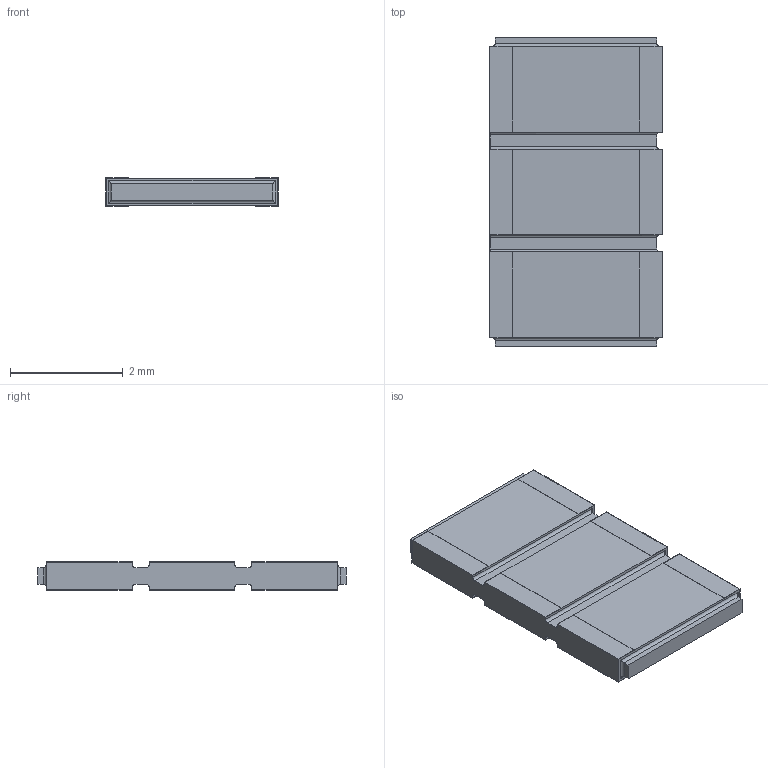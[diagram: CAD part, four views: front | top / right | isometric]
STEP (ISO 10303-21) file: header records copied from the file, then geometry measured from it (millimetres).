
FILE_DESCRIPTION(/* description */ (''),/* implementation_level */ '2;1');
FILE_NAME(/* name */ 'S:\DOCUMENT\AUTOCAD\3D_Modèles\10_3D-pour-VISHAY-COM\PRA\PRA182\PRA182-C2_à_C8\10_IGES\PRA182C3_B-or-N-or-G.stp',/* time_stamp */ '2017-12-19T09:05:56+01:00',/* author */ ('dparmentier'),/* organization */ ('unknown'),/* preprocessor_version */ 'ST-DEVELOPER v17',/* originating_system */ 'Autodesk Inventor 2018',/* authorisation */ '');
FILE_SCHEMA (('AUTOMOTIVE_DESIGN { 1 0 10303 214 3 1 1 }'));
Length unit declared in the file: millimetre
Products named in the file (1): PRA182C3_B-or-N-or-G
Bounding box: 3.06 x 5.47 x 0.5 mm (x, y, z)
Volume: 7.7 mm3; surface area: 67 mm2
Topology: 5 solids, 5 shells, 124 faces, 320 edges, 208 vertices
Faces by surface type: plane 96, cylinder 28
Entity records: 3765 total; most frequent: CARTESIAN_POINT 653, ORIENTED_EDGE 640, DIRECTION 610, EDGE_CURVE 320, LINE 280, VECTOR 280, VERTEX_POINT 208, AXIS2_PLACEMENT_3D 165
